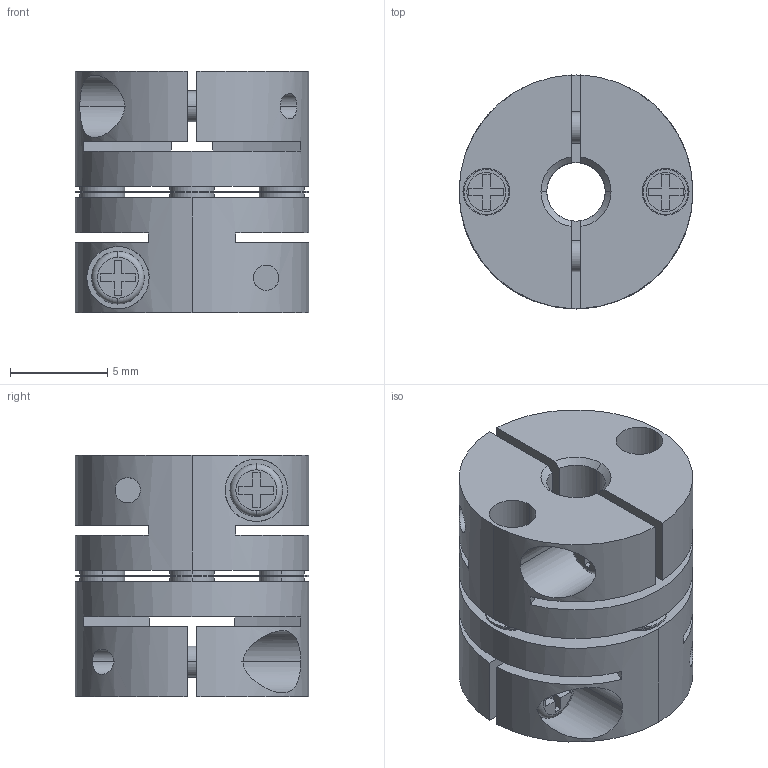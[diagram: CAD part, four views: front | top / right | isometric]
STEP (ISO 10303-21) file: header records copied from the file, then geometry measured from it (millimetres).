
FILE_DESCRIPTION((''),'2;1');
FILE_NAME('LAS-12C-3×5.stp','2011-08-11T11:59:53',(''),(''),'AutoCAD STEP 2000i','AutoCAD 2000i',', , ');
FILE_SCHEMA(('CONFIG_CONTROL_DESIGN'));
Length unit declared in the file: millimetre
Products named in the file (6): LAS-12C-3×5; 忣兜1; LA-1202-D05; LA-1202-D03-1; LA-1202-D03; LAS12-ITA
Assembly tree (5 placements, depth 2):
  LAS-12C-3×5
    忣兜1
    LA-1202-D05
    LA-1202-D03-1
    LA-1202-D03
    LAS12-ITA
Bounding box: 12 x 12 x 12.4 mm (x, y, z)
Volume: 898.7 mm3; surface area: 1776.4 mm2
Topology: 1 solids, 1 shells, 264 faces, 692 edges, 460 vertices
Faces by surface type: plane 156, cylinder 88, cone 12, torus 8
Entity records: 8729 total; most frequent: CARTESIAN_POINT 1814, DIRECTION 1440, ORIENTED_EDGE 1384, EDGE_CURVE 692, AXIS2_PLACEMENT_3D 502, VERTEX_POINT 460, VECTOR 436, LINE 436
